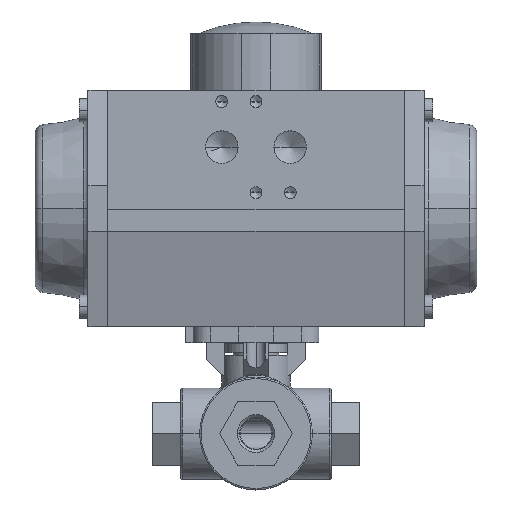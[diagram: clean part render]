
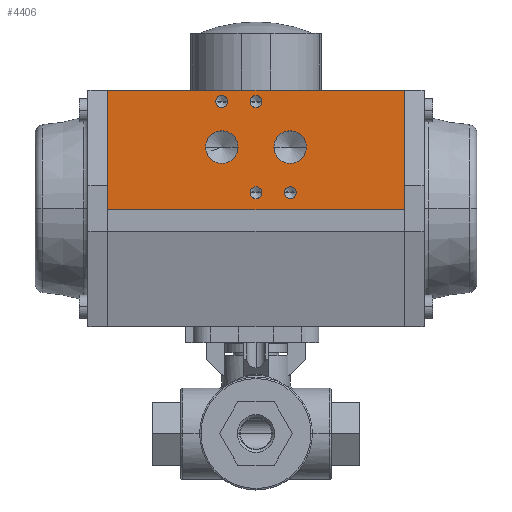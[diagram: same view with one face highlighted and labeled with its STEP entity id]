
A CAD part, top view. The second image highlights one B-rep face of the part: STEP entity #4406.
In plain terms, the highlighted planar face has unit normal (0, 0, 1) as drawn and (1, 0, 0) by its records, which use the part's own axes.
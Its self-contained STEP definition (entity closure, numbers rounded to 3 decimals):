
#88 = AXIS2_PLACEMENT_3D ( 'NONE', #2287, #2696, #11845 ) ;
#93 = ORIENTED_EDGE ( 'NONE', *, *, #1721, .F. ) ;
#110 = ORIENTED_EDGE ( 'NONE', *, *, #10390, .F. ) ;
#163 = CARTESIAN_POINT ( 'NONE',  ( 42.5, 21.5, 6.277 ) ) ;
#171 = EDGE_CURVE ( 'NONE', #2552, #13379, #5700, .T. ) ;
#243 = ORIENTED_EDGE ( 'NONE', *, *, #12510, .F. ) ;
#292 = CARTESIAN_POINT ( 'NONE',  ( 42.5, 5.5, 0. ) ) ;
#589 = AXIS2_PLACEMENT_3D ( 'NONE', #15642, #7796, #16976 ) ;
#674 = EDGE_CURVE ( 'NONE', #2138, #7410, #6098, .T. ) ;
#879 = AXIS2_PLACEMENT_3D ( 'NONE', #15546, #14405, #1317 ) ;
#915 = FACE_BOUND ( 'NONE', #5623, .T. ) ;
#1014 = EDGE_LOOP ( 'NONE', ( #110, #1904 ) ) ;
#1113 = CARTESIAN_POINT ( 'NONE',  ( 42.5, 37.5, 14.1 ) ) ;
#1132 = EDGE_CURVE ( 'NONE', #5445, #14553, #12427, .T. ) ;
#1248 = EDGE_LOOP ( 'NONE', ( #16940, #7707 ) ) ;
#1317 = DIRECTION ( 'NONE',  ( 0., 0., -1. ) ) ;
#1525 = AXIS2_PLACEMENT_3D ( 'NONE', #6855, #14542, #16023 ) ;
#1721 = EDGE_CURVE ( 'NONE', #9177, #7928, #12823, .T. ) ;
#1851 = DIRECTION ( 'NONE',  ( 0., 0., -1. ) ) ;
#1904 = ORIENTED_EDGE ( 'NONE', *, *, #12636, .F. ) ;
#1908 = DIRECTION ( 'NONE',  ( 0., 0., 1. ) ) ;
#2093 = CARTESIAN_POINT ( 'NONE',  ( 42.5, 37.5, -2.1 ) ) ;
#2138 = VERTEX_POINT ( 'NONE', #12543 ) ;
#2139 = FACE_OUTER_BOUND ( 'NONE', #14830, .T. ) ;
#2287 = CARTESIAN_POINT ( 'NONE',  ( 42.5, 37.5, 12. ) ) ;
#2343 = CIRCLE ( 'NONE', #7121, 5.722 ) ;
#2552 = VERTEX_POINT ( 'NONE', #6887 ) ;
#2696 = DIRECTION ( 'NONE',  ( 1., 0., 0. ) ) ;
#2800 = DIRECTION ( 'NONE',  ( 0., 0., -1. ) ) ;
#3013 = CARTESIAN_POINT ( 'NONE',  ( 42.5, 41.5, -52. ) ) ;
#3293 = DIRECTION ( 'NONE',  ( 0., 0., -1. ) ) ;
#3707 = VERTEX_POINT ( 'NONE', #2093 ) ;
#3868 = CIRCLE ( 'NONE', #7273, 5.722 ) ;
#3869 = VECTOR ( 'NONE', #1908, 1000. ) ;
#4079 = DIRECTION ( 'NONE',  ( 1., 0., 0. ) ) ;
#4121 = DIRECTION ( 'NONE',  ( 0., 0., -1. ) ) ;
#4127 = CARTESIAN_POINT ( 'NONE',  ( 42.5, 21.5, 17.722 ) ) ;
#4178 = DIRECTION ( 'NONE',  ( 1., 0., 0. ) ) ;
#4406 = ADVANCED_FACE ( 'NONE', ( #9911, #6640, #915, #6243, #11948, #13402, #2139 ), #5548, .T. ) ;
#4497 = VERTEX_POINT ( 'NONE', #4127 ) ;
#4679 = CARTESIAN_POINT ( 'NONE',  ( 42.5, 21.5, -12. ) ) ;
#4806 = ORIENTED_EDGE ( 'NONE', *, *, #1132, .F. ) ;
#5151 = CARTESIAN_POINT ( 'NONE',  ( 42.5, -0.5, 52. ) ) ;
#5227 = ORIENTED_EDGE ( 'NONE', *, *, #6247, .F. ) ;
#5445 = VERTEX_POINT ( 'NONE', #12028 ) ;
#5548 = PLANE ( 'NONE',  #1525 ) ;
#5596 = CARTESIAN_POINT ( 'NONE',  ( 42.5, 21.5, 12. ) ) ;
#5623 = EDGE_LOOP ( 'NONE', ( #4806, #243 ) ) ;
#5642 = CARTESIAN_POINT ( 'NONE',  ( 42.5, 21.5, 12. ) ) ;
#5700 = LINE ( 'NONE', #12227, #16763 ) ;
#5883 = CARTESIAN_POINT ( 'NONE',  ( 42.5, 21.5, -12. ) ) ;
#6019 = VERTEX_POINT ( 'NONE', #11335 ) ;
#6030 = EDGE_LOOP ( 'NONE', ( #7040, #7232 ) ) ;
#6098 = CIRCLE ( 'NONE', #9671, 2.1 ) ;
#6243 = FACE_BOUND ( 'NONE', #1014, .T. ) ;
#6247 = EDGE_CURVE ( 'NONE', #7410, #2138, #15969, .T. ) ;
#6313 = DIRECTION ( 'NONE',  ( 0., 1., 0. ) ) ;
#6420 = VERTEX_POINT ( 'NONE', #16197 ) ;
#6640 = FACE_BOUND ( 'NONE', #14394, .T. ) ;
#6816 = DIRECTION ( 'NONE',  ( 1., 0., 0. ) ) ;
#6834 = CARTESIAN_POINT ( 'NONE',  ( 42.5, 5.5, -12. ) ) ;
#6855 = CARTESIAN_POINT ( 'NONE',  ( 42.5, -0.5, -52. ) ) ;
#6887 = CARTESIAN_POINT ( 'NONE',  ( 42.5, -0.5, -52. ) ) ;
#6916 = DIRECTION ( 'NONE',  ( 0., 0., -1. ) ) ;
#6964 = EDGE_CURVE ( 'NONE', #13379, #7928, #11018, .T. ) ;
#7040 = ORIENTED_EDGE ( 'NONE', *, *, #11611, .F. ) ;
#7086 = CARTESIAN_POINT ( 'NONE',  ( 42.5, 41.5, -52. ) ) ;
#7121 = AXIS2_PLACEMENT_3D ( 'NONE', #4679, #13945, #15259 ) ;
#7232 = ORIENTED_EDGE ( 'NONE', *, *, #12398, .F. ) ;
#7273 = AXIS2_PLACEMENT_3D ( 'NONE', #5642, #13354, #9459 ) ;
#7278 = EDGE_CURVE ( 'NONE', #7877, #12101, #10819, .T. ) ;
#7312 = EDGE_LOOP ( 'NONE', ( #13279, #8961 ) ) ;
#7410 = VERTEX_POINT ( 'NONE', #10930 ) ;
#7581 = EDGE_CURVE ( 'NONE', #12101, #7877, #8138, .T. ) ;
#7707 = ORIENTED_EDGE ( 'NONE', *, *, #16845, .F. ) ;
#7796 = DIRECTION ( 'NONE',  ( 1., 0., 0. ) ) ;
#7877 = VERTEX_POINT ( 'NONE', #8397 ) ;
#7928 = VERTEX_POINT ( 'NONE', #10109 ) ;
#8138 = CIRCLE ( 'NONE', #88, 2.1 ) ;
#8141 = DIRECTION ( 'NONE',  ( 1., 0., 0. ) ) ;
#8181 = CARTESIAN_POINT ( 'NONE',  ( 42.5, 37.5, 12. ) ) ;
#8186 = CIRCLE ( 'NONE', #16242, 5.722 ) ;
#8198 = VERTEX_POINT ( 'NONE', #9143 ) ;
#8226 = AXIS2_PLACEMENT_3D ( 'NONE', #13884, #15186, #1851 ) ;
#8388 = DIRECTION ( 'NONE',  ( 0., 1., 0. ) ) ;
#8397 = CARTESIAN_POINT ( 'NONE',  ( 42.5, 37.5, 9.9 ) ) ;
#8961 = ORIENTED_EDGE ( 'NONE', *, *, #7581, .F. ) ;
#9143 = CARTESIAN_POINT ( 'NONE',  ( 42.5, 21.5, -17.722 ) ) ;
#9177 = VERTEX_POINT ( 'NONE', #13813 ) ;
#9335 = DIRECTION ( 'NONE',  ( 0., 0., -1. ) ) ;
#9459 = DIRECTION ( 'NONE',  ( 0., 0., -1. ) ) ;
#9605 = LINE ( 'NONE', #12282, #13725 ) ;
#9671 = AXIS2_PLACEMENT_3D ( 'NONE', #6834, #8141, #12206 ) ;
#9720 = ORIENTED_EDGE ( 'NONE', *, *, #6964, .T. ) ;
#9911 = FACE_BOUND ( 'NONE', #7312, .T. ) ;
#10109 = CARTESIAN_POINT ( 'NONE',  ( 42.5, 41.5, 52. ) ) ;
#10197 = CIRCLE ( 'NONE', #589, 2.1 ) ;
#10390 = EDGE_CURVE ( 'NONE', #3707, #6420, #14213, .T. ) ;
#10683 = AXIS2_PLACEMENT_3D ( 'NONE', #8181, #6816, #9335 ) ;
#10819 = CIRCLE ( 'NONE', #10683, 2.1 ) ;
#10930 = CARTESIAN_POINT ( 'NONE',  ( 42.5, 5.5, -9.9 ) ) ;
#11018 = LINE ( 'NONE', #3013, #3869 ) ;
#11183 = CARTESIAN_POINT ( 'NONE',  ( 42.5, 5.5, 2.1 ) ) ;
#11335 = CARTESIAN_POINT ( 'NONE',  ( 42.5, 21.5, -6.277 ) ) ;
#11611 = EDGE_CURVE ( 'NONE', #12279, #4497, #8186, .T. ) ;
#11767 = ORIENTED_EDGE ( 'NONE', *, *, #11819, .F. ) ;
#11819 = EDGE_CURVE ( 'NONE', #2552, #9177, #9605, .T. ) ;
#11839 = CIRCLE ( 'NONE', #8226, 2.1 ) ;
#11845 = DIRECTION ( 'NONE',  ( 0., 0., -1. ) ) ;
#11862 = CIRCLE ( 'NONE', #13437, 5.722 ) ;
#11948 = FACE_BOUND ( 'NONE', #1248, .T. ) ;
#12006 = CARTESIAN_POINT ( 'NONE',  ( 42.5, 5.5, -12. ) ) ;
#12028 = CARTESIAN_POINT ( 'NONE',  ( 42.5, 5.5, -2.1 ) ) ;
#12101 = VERTEX_POINT ( 'NONE', #1113 ) ;
#12206 = DIRECTION ( 'NONE',  ( 0., 0., -1. ) ) ;
#12223 = DIRECTION ( 'NONE',  ( 0., 0., 1. ) ) ;
#12227 = CARTESIAN_POINT ( 'NONE',  ( 42.5, -0.5, -52. ) ) ;
#12279 = VERTEX_POINT ( 'NONE', #163 ) ;
#12282 = CARTESIAN_POINT ( 'NONE',  ( 42.5, -0.5, -52. ) ) ;
#12384 = DIRECTION ( 'NONE',  ( 1., 0., 0. ) ) ;
#12398 = EDGE_CURVE ( 'NONE', #4497, #12279, #3868, .T. ) ;
#12406 = ORIENTED_EDGE ( 'NONE', *, *, #674, .F. ) ;
#12427 = CIRCLE ( 'NONE', #12802, 2.1 ) ;
#12510 = EDGE_CURVE ( 'NONE', #14553, #5445, #11839, .T. ) ;
#12543 = CARTESIAN_POINT ( 'NONE',  ( 42.5, 5.5, -14.1 ) ) ;
#12636 = EDGE_CURVE ( 'NONE', #6420, #3707, #10197, .T. ) ;
#12802 = AXIS2_PLACEMENT_3D ( 'NONE', #292, #14744, #6916 ) ;
#12823 = LINE ( 'NONE', #5151, #15892 ) ;
#13202 = AXIS2_PLACEMENT_3D ( 'NONE', #12006, #4079, #2800 ) ;
#13279 = ORIENTED_EDGE ( 'NONE', *, *, #7278, .F. ) ;
#13354 = DIRECTION ( 'NONE',  ( 1., 0., 0. ) ) ;
#13379 = VERTEX_POINT ( 'NONE', #7086 ) ;
#13402 = FACE_BOUND ( 'NONE', #6030, .T. ) ;
#13437 = AXIS2_PLACEMENT_3D ( 'NONE', #5883, #12384, #3293 ) ;
#13725 = VECTOR ( 'NONE', #12223, 1000. ) ;
#13813 = CARTESIAN_POINT ( 'NONE',  ( 42.5, -0.5, 52. ) ) ;
#13884 = CARTESIAN_POINT ( 'NONE',  ( 42.5, 5.5, 0. ) ) ;
#13945 = DIRECTION ( 'NONE',  ( 1., 0., 0. ) ) ;
#14213 = CIRCLE ( 'NONE', #879, 2.1 ) ;
#14394 = EDGE_LOOP ( 'NONE', ( #12406, #5227 ) ) ;
#14405 = DIRECTION ( 'NONE',  ( 1., 0., 0. ) ) ;
#14501 = EDGE_CURVE ( 'NONE', #8198, #6019, #11862, .T. ) ;
#14542 = DIRECTION ( 'NONE',  ( 1., 0., 0. ) ) ;
#14553 = VERTEX_POINT ( 'NONE', #11183 ) ;
#14744 = DIRECTION ( 'NONE',  ( 1., 0., 0. ) ) ;
#14830 = EDGE_LOOP ( 'NONE', ( #9720, #93, #11767, #15787 ) ) ;
#15186 = DIRECTION ( 'NONE',  ( 1., 0., 0. ) ) ;
#15259 = DIRECTION ( 'NONE',  ( 0., 0., -1. ) ) ;
#15546 = CARTESIAN_POINT ( 'NONE',  ( 42.5, 37.5, 0. ) ) ;
#15642 = CARTESIAN_POINT ( 'NONE',  ( 42.5, 37.5, 0. ) ) ;
#15787 = ORIENTED_EDGE ( 'NONE', *, *, #171, .T. ) ;
#15892 = VECTOR ( 'NONE', #6313, 1000. ) ;
#15969 = CIRCLE ( 'NONE', #13202, 2.1 ) ;
#16023 = DIRECTION ( 'NONE',  ( 0., 1., 0. ) ) ;
#16197 = CARTESIAN_POINT ( 'NONE',  ( 42.5, 37.5, 2.1 ) ) ;
#16242 = AXIS2_PLACEMENT_3D ( 'NONE', #5596, #4178, #4121 ) ;
#16763 = VECTOR ( 'NONE', #8388, 1000. ) ;
#16845 = EDGE_CURVE ( 'NONE', #6019, #8198, #2343, .T. ) ;
#16940 = ORIENTED_EDGE ( 'NONE', *, *, #14501, .F. ) ;
#16976 = DIRECTION ( 'NONE',  ( 0., 0., -1. ) ) ;
